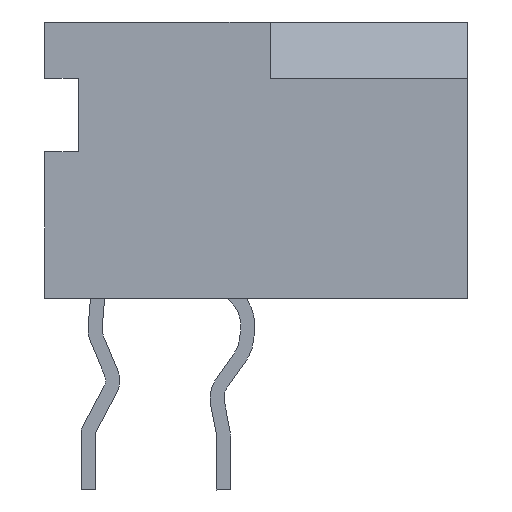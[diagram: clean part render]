
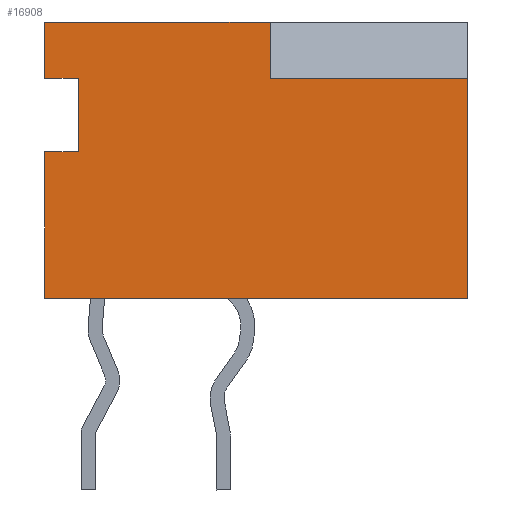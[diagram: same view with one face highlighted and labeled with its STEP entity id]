
A CAD part, left-side view. The second image highlights one B-rep face of the part: STEP entity #16908.
In plain terms, the highlighted planar face has unit normal (-1, 0, 0).
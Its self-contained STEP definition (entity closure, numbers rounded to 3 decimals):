
#215 = VECTOR ( 'NONE', #23720, 1000. ) ;
#352 = EDGE_CURVE ( 'NONE', #16633, #3360, #13033, .T. ) ;
#529 = ORIENTED_EDGE ( 'NONE', *, *, #352, .T. ) ;
#1059 = DIRECTION ( 'NONE',  ( -1., 0., 0. ) ) ;
#1224 = VERTEX_POINT ( 'NONE', #9964 ) ;
#1675 = DIRECTION ( 'NONE',  ( 0., 1., 0. ) ) ;
#1947 = CARTESIAN_POINT ( 'NONE',  ( -17.4, -3.75, 1.45 ) ) ;
#2188 = EDGE_CURVE ( 'NONE', #12212, #15367, #9996, .T. ) ;
#2214 = ORIENTED_EDGE ( 'NONE', *, *, #2188, .F. ) ;
#2898 = AXIS2_PLACEMENT_3D ( 'NONE', #10436, #1059, #10560 ) ;
#3360 = VERTEX_POINT ( 'NONE', #6170 ) ;
#3659 = EDGE_CURVE ( 'NONE', #19999, #12212, #17579, .T. ) ;
#4156 = CARTESIAN_POINT ( 'NONE',  ( -17.4, 3.75, 1.45 ) ) ;
#5712 = VERTEX_POINT ( 'NONE', #22168 ) ;
#5762 = DIRECTION ( 'NONE',  ( 0., 0., 1. ) ) ;
#5859 = CARTESIAN_POINT ( 'NONE',  ( -17.4, 3.15, 0.15 ) ) ;
#6116 = CARTESIAN_POINT ( 'NONE',  ( -17.4, -3.75, -2.45 ) ) ;
#6170 = CARTESIAN_POINT ( 'NONE',  ( -17.4, -0.25, 1.45 ) ) ;
#6360 = LINE ( 'NONE', #19778, #23117 ) ;
#6768 = LINE ( 'NONE', #8382, #24271 ) ;
#7188 = CARTESIAN_POINT ( 'NONE',  ( -17.4, 3.75, -2.45 ) ) ;
#8382 = CARTESIAN_POINT ( 'NONE',  ( -17.4, 3.75, 1.45 ) ) ;
#8797 = DIRECTION ( 'NONE',  ( 0., -1., 0. ) ) ;
#9141 = VECTOR ( 'NONE', #5762, 1000. ) ;
#9347 = EDGE_LOOP ( 'NONE', ( #23434, #10711, #17259, #529, #13045, #2214, #12488, #15440, #23615, #13878 ) ) ;
#9798 = CARTESIAN_POINT ( 'NONE',  ( -17.4, 3.15, 0.15 ) ) ;
#9930 = CARTESIAN_POINT ( 'NONE',  ( -17.4, 3.75, 1.45 ) ) ;
#9964 = CARTESIAN_POINT ( 'NONE',  ( -17.4, 3.75, 0.15 ) ) ;
#9996 = LINE ( 'NONE', #23163, #13048 ) ;
#10387 = DIRECTION ( 'NONE',  ( 0., 0., -1. ) ) ;
#10436 = CARTESIAN_POINT ( 'NONE',  ( -17.4, 3.75, -2.45 ) ) ;
#10455 = EDGE_CURVE ( 'NONE', #1224, #13040, #14592, .T. ) ;
#10560 = DIRECTION ( 'NONE',  ( 0., 0., 1. ) ) ;
#10711 = ORIENTED_EDGE ( 'NONE', *, *, #20277, .T. ) ;
#10780 = CARTESIAN_POINT ( 'NONE',  ( -17.4, 3.75, 0.15 ) ) ;
#12111 = EDGE_CURVE ( 'NONE', #19999, #24333, #6768, .T. ) ;
#12212 = VERTEX_POINT ( 'NONE', #22157 ) ;
#12311 = VECTOR ( 'NONE', #14709, 1000. ) ;
#12488 = ORIENTED_EDGE ( 'NONE', *, *, #3659, .F. ) ;
#12758 = VERTEX_POINT ( 'NONE', #6116 ) ;
#12894 = EDGE_CURVE ( 'NONE', #12758, #16633, #6360, .T. ) ;
#13033 = LINE ( 'NONE', #22251, #22051 ) ;
#13040 = VERTEX_POINT ( 'NONE', #9798 ) ;
#13045 = ORIENTED_EDGE ( 'NONE', *, *, #23102, .F. ) ;
#13048 = VECTOR ( 'NONE', #15414, 1000. ) ;
#13363 = LINE ( 'NONE', #7188, #12311 ) ;
#13385 = DIRECTION ( 'NONE',  ( 0., 0., 1. ) ) ;
#13849 = CARTESIAN_POINT ( 'NONE',  ( -17.4, -0.25, 2.45 ) ) ;
#13878 = ORIENTED_EDGE ( 'NONE', *, *, #10455, .F. ) ;
#14042 = EDGE_CURVE ( 'NONE', #13040, #24333, #17415, .T. ) ;
#14592 = LINE ( 'NONE', #10780, #19881 ) ;
#14617 = CARTESIAN_POINT ( 'NONE',  ( -17.4, 3.75, -2.45 ) ) ;
#14709 = DIRECTION ( 'NONE',  ( 0., -1., 0. ) ) ;
#15367 = VERTEX_POINT ( 'NONE', #21605 ) ;
#15414 = DIRECTION ( 'NONE',  ( 0., -1., 0. ) ) ;
#15440 = ORIENTED_EDGE ( 'NONE', *, *, #12111, .T. ) ;
#16026 = DIRECTION ( 'NONE',  ( 0., -1., 0. ) ) ;
#16633 = VERTEX_POINT ( 'NONE', #1947 ) ;
#16908 = ADVANCED_FACE ( 'NONE', ( #18188 ), #23596, .T. ) ;
#17259 = ORIENTED_EDGE ( 'NONE', *, *, #12894, .T. ) ;
#17415 = LINE ( 'NONE', #5859, #20730 ) ;
#17579 = LINE ( 'NONE', #4156, #9141 ) ;
#18188 = FACE_OUTER_BOUND ( 'NONE', #9347, .T. ) ;
#19739 = LINE ( 'NONE', #13849, #24211 ) ;
#19778 = CARTESIAN_POINT ( 'NONE',  ( -17.4, -3.75, -2.45 ) ) ;
#19881 = VECTOR ( 'NONE', #8797, 1000. ) ;
#19999 = VERTEX_POINT ( 'NONE', #9930 ) ;
#20023 = DIRECTION ( 'NONE',  ( 0., 0., 1. ) ) ;
#20277 = EDGE_CURVE ( 'NONE', #5712, #12758, #13363, .T. ) ;
#20730 = VECTOR ( 'NONE', #13385, 1000. ) ;
#20867 = CARTESIAN_POINT ( 'NONE',  ( -17.4, 3.15, 1.45 ) ) ;
#21605 = CARTESIAN_POINT ( 'NONE',  ( -17.4, -0.25, 2.45 ) ) ;
#21747 = LINE ( 'NONE', #14617, #215 ) ;
#22051 = VECTOR ( 'NONE', #1675, 1000. ) ;
#22157 = CARTESIAN_POINT ( 'NONE',  ( -17.4, 3.75, 2.45 ) ) ;
#22168 = CARTESIAN_POINT ( 'NONE',  ( -17.4, 3.75, -2.45 ) ) ;
#22251 = CARTESIAN_POINT ( 'NONE',  ( -17.4, -3.75, 1.45 ) ) ;
#23102 = EDGE_CURVE ( 'NONE', #15367, #3360, #19739, .T. ) ;
#23117 = VECTOR ( 'NONE', #20023, 1000. ) ;
#23163 = CARTESIAN_POINT ( 'NONE',  ( -17.4, 3.75, 2.45 ) ) ;
#23434 = ORIENTED_EDGE ( 'NONE', *, *, #23883, .F. ) ;
#23596 = PLANE ( 'NONE',  #2898 ) ;
#23615 = ORIENTED_EDGE ( 'NONE', *, *, #14042, .F. ) ;
#23720 = DIRECTION ( 'NONE',  ( 0., 0., 1. ) ) ;
#23883 = EDGE_CURVE ( 'NONE', #5712, #1224, #21747, .T. ) ;
#24211 = VECTOR ( 'NONE', #10387, 1000. ) ;
#24271 = VECTOR ( 'NONE', #16026, 1000. ) ;
#24333 = VERTEX_POINT ( 'NONE', #20867 ) ;
